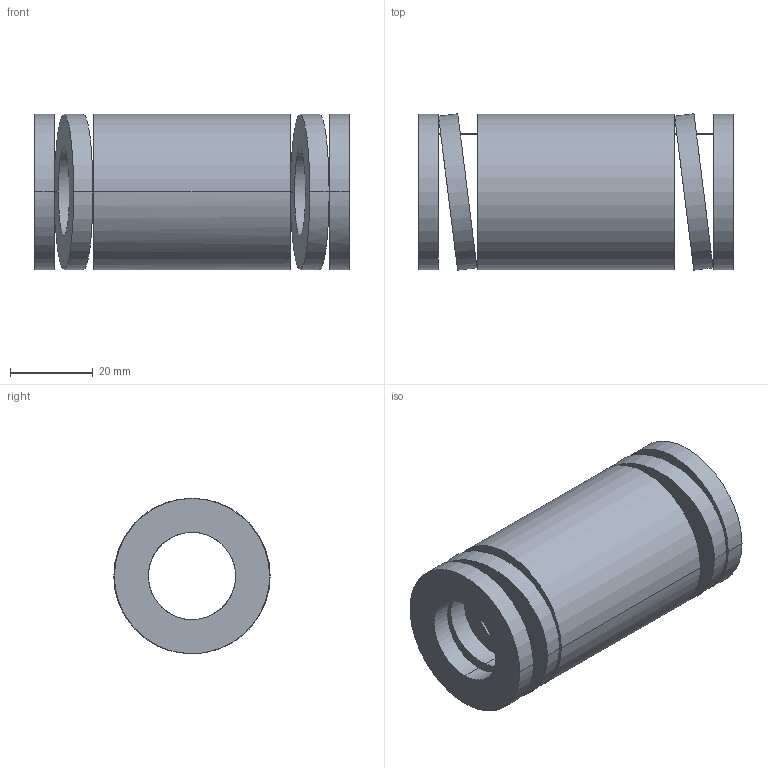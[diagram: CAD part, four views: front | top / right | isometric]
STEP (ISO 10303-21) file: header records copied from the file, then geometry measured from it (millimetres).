
FILE_DESCRIPTION(('CATIA V5 STEP Exchange'),'2;1');
FILE_NAME('C:\Users\Utente\Desktop\IO LAVORO\3D X SITO CF\X SITO\3D files 392B\392-B40-076.stp','2021-08-13T11:19:34+00:00',('none'),('none'),'CATIA Version 5 Release 20 GA (IN-10)','CATIA V5 STEP AP203','none');
FILE_SCHEMA(('CONFIG_CONTROL_DESIGN'));
Length unit declared in the file: millimetre
Products named in the file (1): 392-B40-076
Bounding box: 76 x 37.79 x 37.5 mm (x, y, z)
Volume: 50072 mm3; surface area: 19766.6 mm2
Topology: 1 solids, 1 shells, 38 faces, 92 edges, 64 vertices
Faces by surface type: cylinder 28, plane 10
Entity records: 1626 total; most frequent: CARTESIAN_POINT 747, ORIENTED_EDGE 184, DIRECTION 124, EDGE_CURVE 92, VERTEX_POINT 64, AXIS2_PLACEMENT_3D 59, EDGE_LOOP 56, B_SPLINE_CURVE_WITH_KNOTS 44
